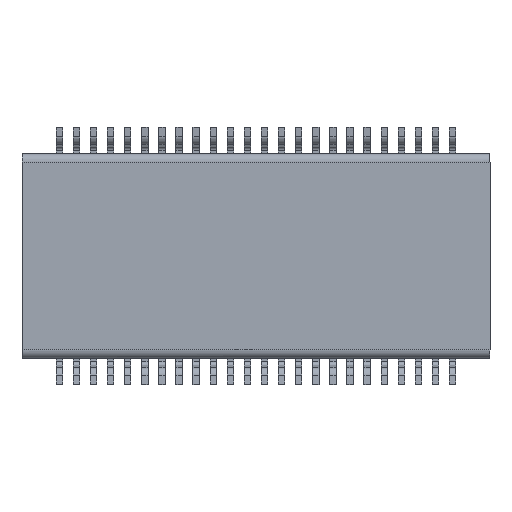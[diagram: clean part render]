
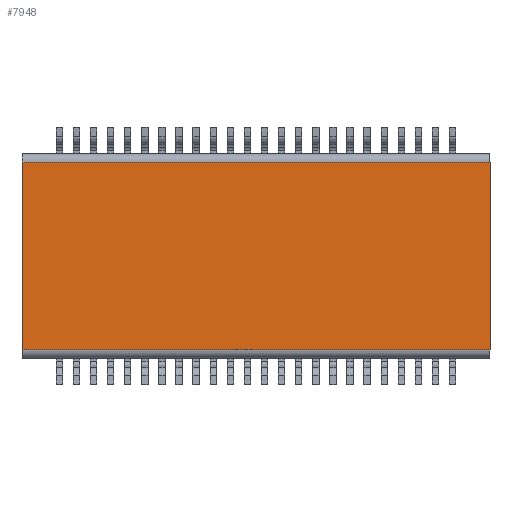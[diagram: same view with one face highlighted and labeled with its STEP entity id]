
A CAD part, front view. The second image highlights one B-rep face of the part: STEP entity #7948.
In plain terms, the highlighted planar face has unit normal (0, -1, 0).
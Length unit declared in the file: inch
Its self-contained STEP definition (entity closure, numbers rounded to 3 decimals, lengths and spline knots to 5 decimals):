
#145 = LINE ( 'NONE', #10485, #3803 ) ;
#489 = CARTESIAN_POINT ( 'NONE',  ( -0.5475, -0.275, -0.21965 ) ) ;
#845 = LINE ( 'NONE', #13386, #8152 ) ;
#1024 = VECTOR ( 'NONE', #7102, 39.37008 ) ;
#2027 = EDGE_CURVE ( 'NONE', #6873, #11085, #145, .T. ) ;
#2552 = LINE ( 'NONE', #19739, #18160 ) ;
#2799 = EDGE_CURVE ( 'NONE', #6873, #19064, #2552, .T. ) ;
#3640 = CARTESIAN_POINT ( 'NONE',  ( -0.5475, -0.275, 0.21965 ) ) ;
#3803 = VECTOR ( 'NONE', #16716, 39.37008 ) ;
#4057 = DIRECTION ( 'NONE',  ( 0., 0., 1. ) ) ;
#4110 = ORIENTED_EDGE ( 'NONE', *, *, #17330, .F. ) ;
#4391 = EDGE_LOOP ( 'NONE', ( #4110, #6680, #11215, #9686 ) ) ;
#4735 = EDGE_CURVE ( 'NONE', #14351, #19064, #13473, .T. ) ;
#5519 = CARTESIAN_POINT ( 'NONE',  ( 0.5475, -0.275, -0.21965 ) ) ;
#5914 = DIRECTION ( 'NONE',  ( 0., 0., 1. ) ) ;
#6680 = ORIENTED_EDGE ( 'NONE', *, *, #4735, .T. ) ;
#6873 = VERTEX_POINT ( 'NONE', #17384 ) ;
#7102 = DIRECTION ( 'NONE',  ( 1., 0., 0. ) ) ;
#7259 = DIRECTION ( 'NONE',  ( 0., 0., -1. ) ) ;
#7948 = ADVANCED_FACE ( 'NONE', ( #17806 ), #13429, .F. ) ;
#8152 = VECTOR ( 'NONE', #4057, 39.37008 ) ;
#8786 = CARTESIAN_POINT ( 'NONE',  ( 0., -0.275, 0. ) ) ;
#9686 = ORIENTED_EDGE ( 'NONE', *, *, #2027, .T. ) ;
#9988 = AXIS2_PLACEMENT_3D ( 'NONE', #8786, #16891, #5914 ) ;
#10485 = CARTESIAN_POINT ( 'NONE',  ( -0.5475, -0.275, 0.21965 ) ) ;
#11085 = VERTEX_POINT ( 'NONE', #3640 ) ;
#11215 = ORIENTED_EDGE ( 'NONE', *, *, #2799, .F. ) ;
#13386 = CARTESIAN_POINT ( 'NONE',  ( -0.5475, -0.275, 0.24 ) ) ;
#13429 = PLANE ( 'NONE',  #9988 ) ;
#13473 = LINE ( 'NONE', #5519, #1024 ) ;
#14351 = VERTEX_POINT ( 'NONE', #489 ) ;
#16716 = DIRECTION ( 'NONE',  ( -1., 0., 0. ) ) ;
#16891 = DIRECTION ( 'NONE',  ( 0., 1., 0. ) ) ;
#17330 = EDGE_CURVE ( 'NONE', #14351, #11085, #845, .T. ) ;
#17384 = CARTESIAN_POINT ( 'NONE',  ( 0.5475, -0.275, 0.21965 ) ) ;
#17806 = FACE_OUTER_BOUND ( 'NONE', #4391, .T. ) ;
#18160 = VECTOR ( 'NONE', #7259, 39.37008 ) ;
#18534 = CARTESIAN_POINT ( 'NONE',  ( 0.5475, -0.275, -0.21965 ) ) ;
#19064 = VERTEX_POINT ( 'NONE', #18534 ) ;
#19739 = CARTESIAN_POINT ( 'NONE',  ( 0.5475, -0.275, 0.24 ) ) ;
